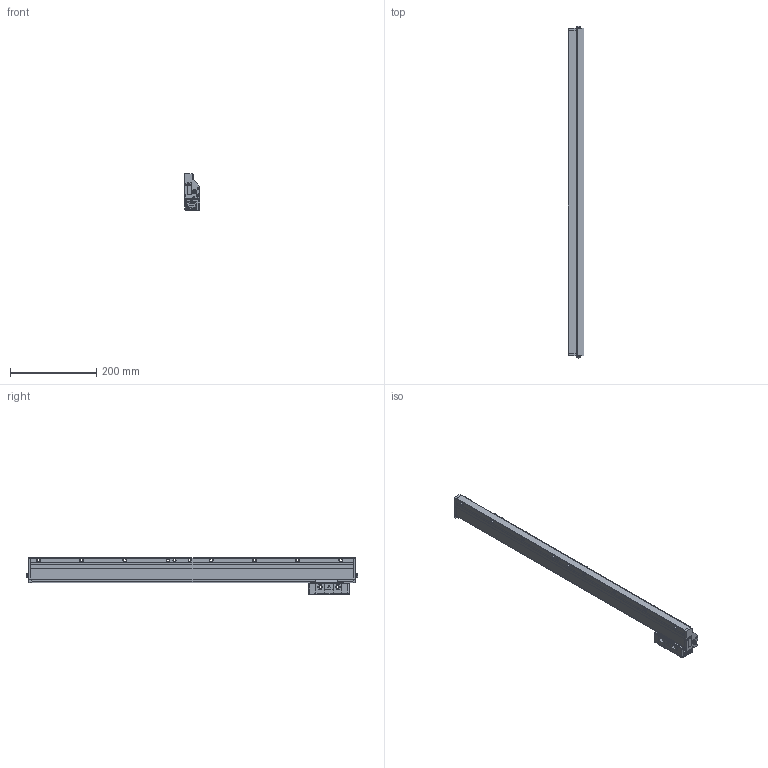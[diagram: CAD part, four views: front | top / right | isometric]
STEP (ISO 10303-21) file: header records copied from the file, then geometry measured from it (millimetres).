
FILE_DESCRIPTION(('Creo Elements/Direct Modeling STEP Export'),'2;1');
FILE_NAME('AT1123-640.stp','2018-10-12T 8:56:42',(''),(''),'Creo Elements/Direct Modeling STEP processor for AP214 (Solid Model)','Creo Elements/Direct Modeling 18.1B 29-Sep-2012 (C) Parametric Technology GmbH','');
FILE_SCHEMA(('AUTOMOTIVE_DESIGN { 1 0 10303 214 1 1 1 1 }'));
Products named in the file (3): Scale_640; DetectorHead; AT1123-640
Assembly tree (2 placements, depth 2):
  AT1123-640
    DetectorHead
    Scale_640
Bounding box: 37 x 768.44 x 85 mm (x, y, z)
Volume: 75071.2 mm3; surface area: 185155.7 mm2
Topology: 1 solids, 2 shells, 2821 faces, 7468 edges, 4840 vertices
Faces by surface type: plane 1704, cylinder 905, cone 110, torus 69, bspline 13, sphere 12, extrusion 8
Entity records: 90045 total; most frequent: CARTESIAN_POINT 16620, ORIENTED_EDGE 14960, DIRECTION 14221, EDGE_CURVE 7449, VECTOR 4977, LINE 4969, VERTEX_POINT 4840, AXIS2_PLACEMENT_3D 4622
